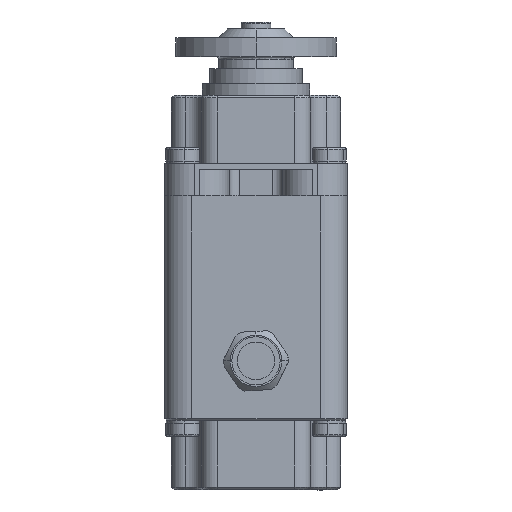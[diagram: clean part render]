
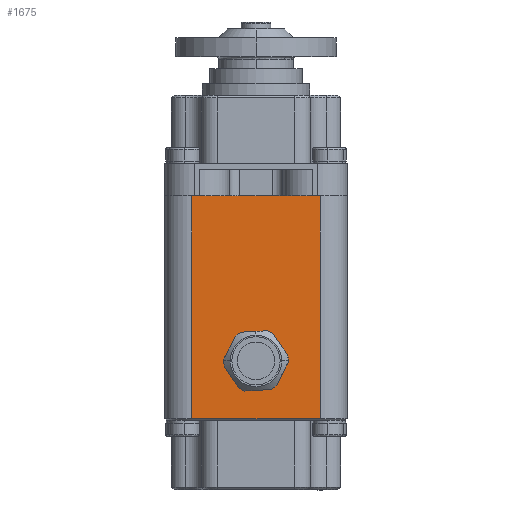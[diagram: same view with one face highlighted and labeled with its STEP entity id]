
A CAD part, front view. The second image highlights one B-rep face of the part: STEP entity #1675.
In plain terms, the highlighted planar face has unit normal (0, -1, 0).
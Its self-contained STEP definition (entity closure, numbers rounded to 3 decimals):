
#16 = CARTESIAN_POINT ( 'NONE',  ( -2.697, -17.3, -44.24 ) ) ;
#113 = EDGE_LOOP ( 'NONE', ( #15034, #4966, #6314, #21795, #18076, #9663, #15623, #6759, #18980, #1088, #8671, #14453 ) ) ;
#280 = CARTESIAN_POINT ( 'NONE',  ( 5.916, -17.3, -48.599 ) ) ;
#435 = VERTEX_POINT ( 'NONE', #11527 ) ;
#533 = AXIS2_PLACEMENT_3D ( 'NONE', #10799, #2221, #9109 ) ;
#630 = CARTESIAN_POINT ( 'NONE',  ( 12., -17.3, -53.8 ) ) ;
#824 = ORIENTED_EDGE ( 'NONE', *, *, #9111, .T. ) ;
#848 = LINE ( 'NONE', #630, #13918 ) ;
#895 = CARTESIAN_POINT ( 'NONE',  ( 0., -17.3, -49.6 ) ) ;
#1088 = ORIENTED_EDGE ( 'NONE', *, *, #11759, .T. ) ;
#1186 = VERTEX_POINT ( 'NONE', #1279 ) ;
#1276 = LINE ( 'NONE', #4769, #2254 ) ;
#1279 = CARTESIAN_POINT ( 'NONE',  ( 12., -17.3, -18.8 ) ) ;
#1283 = VECTOR ( 'NONE', #6391, 1000. ) ;
#1524 = VECTOR ( 'NONE', #8959, 1000. ) ;
#1675 = ADVANCED_FACE ( 'NONE', ( #9004, #19355 ), #3916, .T. ) ;
#1892 = CARTESIAN_POINT ( 'NONE',  ( -2.091, -17.3, -55.224 ) ) ;
#1998 = EDGE_CURVE ( 'NONE', #21688, #3635, #14967, .T. ) ;
#2062 = LINE ( 'NONE', #9287, #1524 ) ;
#2113 = CIRCLE ( 'NONE', #4261, 6. ) ;
#2221 = DIRECTION ( 'NONE',  ( 0., -1., 0. ) ) ;
#2254 = VECTOR ( 'NONE', #16829, 1000. ) ;
#2385 = CARTESIAN_POINT ( 'NONE',  ( -5.99, -17.3, -49.256 ) ) ;
#2744 = EDGE_CURVE ( 'NONE', #7207, #6990, #11266, .T. ) ;
#2946 = VERTEX_POINT ( 'NONE', #1892 ) ;
#2953 = VECTOR ( 'NONE', #15118, 1000. ) ;
#3165 = AXIS2_PLACEMENT_3D ( 'NONE', #16786, #19535, #21238 ) ;
#3289 = DIRECTION ( 'NONE',  ( 0., -1., 0. ) ) ;
#3635 = VERTEX_POINT ( 'NONE', #12324 ) ;
#3790 = EDGE_CURVE ( 'NONE', #20111, #6469, #4233, .T. ) ;
#3916 = PLANE ( 'NONE',  #533 ) ;
#3963 = CARTESIAN_POINT ( 'NONE',  ( 5.99, -17.3, -49.944 ) ) ;
#4161 = LINE ( 'NONE', #10040, #2953 ) ;
#4233 = CIRCLE ( 'NONE', #3165, 6. ) ;
#4261 = AXIS2_PLACEMENT_3D ( 'NONE', #16336, #7436, #12727 ) ;
#4269 = DIRECTION ( 'NONE',  ( 0.452, 0., 0.892 ) ) ;
#4368 = VERTEX_POINT ( 'NONE', #22061 ) ;
#4769 = CARTESIAN_POINT ( 'NONE',  ( 10.5, -17.3, -18.8 ) ) ;
#4966 = ORIENTED_EDGE ( 'NONE', *, *, #19036, .T. ) ;
#5136 = EDGE_CURVE ( 'NONE', #5389, #6469, #10501, .T. ) ;
#5389 = VERTEX_POINT ( 'NONE', #11439 ) ;
#5514 = AXIS2_PLACEMENT_3D ( 'NONE', #15285, #20459, #15394 ) ;
#5596 = CARTESIAN_POINT ( 'NONE',  ( -3.825, -17.3, -44.977 ) ) ;
#5773 = DIRECTION ( 'NONE',  ( -0.452, 0., -0.892 ) ) ;
#5935 = DIRECTION ( 'NONE',  ( 0., 0., -1. ) ) ;
#6210 = LINE ( 'NONE', #3963, #11525 ) ;
#6314 = ORIENTED_EDGE ( 'NONE', *, *, #20692, .F. ) ;
#6350 = EDGE_CURVE ( 'NONE', #5389, #6990, #9688, .T. ) ;
#6391 = DIRECTION ( 'NONE',  ( 1., 0., 0. ) ) ;
#6469 = VERTEX_POINT ( 'NONE', #14897 ) ;
#6759 = ORIENTED_EDGE ( 'NONE', *, *, #5136, .T. ) ;
#6813 = CARTESIAN_POINT ( 'NONE',  ( 3.293, -17.3, -44.584 ) ) ;
#6990 = VERTEX_POINT ( 'NONE', #5596 ) ;
#7207 = VERTEX_POINT ( 'NONE', #2385 ) ;
#7293 = EDGE_CURVE ( 'NONE', #9509, #10323, #6210, .T. ) ;
#7350 = DIRECTION ( 'NONE',  ( 0., 0., -1. ) ) ;
#7390 = CARTESIAN_POINT ( 'NONE',  ( -12., -17.3, -53.8 ) ) ;
#7436 = DIRECTION ( 'NONE',  ( 0., -1., 0. ) ) ;
#7663 = EDGE_CURVE ( 'NONE', #9509, #13246, #2113, .T. ) ;
#8671 = ORIENTED_EDGE ( 'NONE', *, *, #7663, .F. ) ;
#8687 = AXIS2_PLACEMENT_3D ( 'NONE', #19477, #19580, #17671 ) ;
#8959 = DIRECTION ( 'NONE',  ( -0.547, 0., 0.837 ) ) ;
#9004 = FACE_BOUND ( 'NONE', #113, .T. ) ;
#9109 = DIRECTION ( 'NONE',  ( 0., 0., -1. ) ) ;
#9111 = EDGE_CURVE ( 'NONE', #435, #21688, #14039, .T. ) ;
#9117 = CARTESIAN_POINT ( 'NONE',  ( -3.293, -17.3, -54.616 ) ) ;
#9120 = CARTESIAN_POINT ( 'NONE',  ( 3.293, -17.3, -44.584 ) ) ;
#9287 = CARTESIAN_POINT ( 'NONE',  ( -3.293, -17.3, -54.616 ) ) ;
#9509 = VERTEX_POINT ( 'NONE', #19527 ) ;
#9663 = ORIENTED_EDGE ( 'NONE', *, *, #2744, .T. ) ;
#9688 = CIRCLE ( 'NONE', #14358, 6. ) ;
#9763 = EDGE_CURVE ( 'NONE', #1186, #3635, #848, .T. ) ;
#10040 = CARTESIAN_POINT ( 'NONE',  ( 2.697, -17.3, -54.96 ) ) ;
#10179 = DIRECTION ( 'NONE',  ( 0.998, 0., 0.055 ) ) ;
#10323 = VERTEX_POINT ( 'NONE', #14936 ) ;
#10364 = EDGE_CURVE ( 'NONE', #435, #1186, #1276, .T. ) ;
#10501 = LINE ( 'NONE', #16, #17264 ) ;
#10799 = CARTESIAN_POINT ( 'NONE',  ( 12., -17.3, -53.8 ) ) ;
#11146 = ORIENTED_EDGE ( 'NONE', *, *, #9763, .F. ) ;
#11266 = LINE ( 'NONE', #16567, #20756 ) ;
#11439 = CARTESIAN_POINT ( 'NONE',  ( -2.697, -17.3, -44.24 ) ) ;
#11525 = VECTOR ( 'NONE', #5773, 1000. ) ;
#11527 = CARTESIAN_POINT ( 'NONE',  ( -12., -17.3, -18.8 ) ) ;
#11759 = EDGE_CURVE ( 'NONE', #20111, #13246, #20559, .T. ) ;
#12324 = CARTESIAN_POINT ( 'NONE',  ( 12., -17.3, -60.4 ) ) ;
#12482 = VECTOR ( 'NONE', #16175, 1000. ) ;
#12727 = DIRECTION ( 'NONE',  ( 0., 0., -1. ) ) ;
#13246 = VERTEX_POINT ( 'NONE', #280 ) ;
#13722 = CIRCLE ( 'NONE', #8687, 6. ) ;
#13896 = EDGE_CURVE ( 'NONE', #4368, #10323, #19735, .T. ) ;
#13918 = VECTOR ( 'NONE', #5935, 1000. ) ;
#14039 = LINE ( 'NONE', #7390, #12482 ) ;
#14253 = VERTEX_POINT ( 'NONE', #20928 ) ;
#14358 = AXIS2_PLACEMENT_3D ( 'NONE', #895, #14451, #7350 ) ;
#14451 = DIRECTION ( 'NONE',  ( 0., -1., 0. ) ) ;
#14453 = ORIENTED_EDGE ( 'NONE', *, *, #7293, .T. ) ;
#14576 = ORIENTED_EDGE ( 'NONE', *, *, #1998, .T. ) ;
#14897 = CARTESIAN_POINT ( 'NONE',  ( 2.091, -17.3, -43.976 ) ) ;
#14936 = CARTESIAN_POINT ( 'NONE',  ( 3.825, -17.3, -54.223 ) ) ;
#14967 = LINE ( 'NONE', #21838, #1283 ) ;
#15034 = ORIENTED_EDGE ( 'NONE', *, *, #13896, .F. ) ;
#15118 = DIRECTION ( 'NONE',  ( -0.998, 0., -0.055 ) ) ;
#15285 = CARTESIAN_POINT ( 'NONE',  ( 0., -17.3, -49.6 ) ) ;
#15394 = DIRECTION ( 'NONE',  ( 0., 0., -1. ) ) ;
#15623 = ORIENTED_EDGE ( 'NONE', *, *, #6350, .F. ) ;
#15969 = CIRCLE ( 'NONE', #5514, 6. ) ;
#16175 = DIRECTION ( 'NONE',  ( 0., 0., -1. ) ) ;
#16336 = CARTESIAN_POINT ( 'NONE',  ( 0., -17.3, -49.6 ) ) ;
#16419 = ORIENTED_EDGE ( 'NONE', *, *, #10364, .F. ) ;
#16567 = CARTESIAN_POINT ( 'NONE',  ( -5.99, -17.3, -49.256 ) ) ;
#16786 = CARTESIAN_POINT ( 'NONE',  ( 0., -17.3, -49.6 ) ) ;
#16815 = DIRECTION ( 'NONE',  ( 0., 0., -1. ) ) ;
#16829 = DIRECTION ( 'NONE',  ( 1., 0., 0. ) ) ;
#16875 = EDGE_CURVE ( 'NONE', #7207, #14253, #13722, .T. ) ;
#17264 = VECTOR ( 'NONE', #10179, 1000. ) ;
#17288 = DIRECTION ( 'NONE',  ( 0.547, 0., -0.837 ) ) ;
#17671 = DIRECTION ( 'NONE',  ( 0., 0., -1. ) ) ;
#17940 = VERTEX_POINT ( 'NONE', #9117 ) ;
#18076 = ORIENTED_EDGE ( 'NONE', *, *, #16875, .F. ) ;
#18623 = AXIS2_PLACEMENT_3D ( 'NONE', #20421, #3289, #16815 ) ;
#18980 = ORIENTED_EDGE ( 'NONE', *, *, #3790, .F. ) ;
#18989 = VECTOR ( 'NONE', #17288, 1000. ) ;
#19036 = EDGE_CURVE ( 'NONE', #4368, #2946, #4161, .T. ) ;
#19123 = CARTESIAN_POINT ( 'NONE',  ( -12., -17.3, -60.4 ) ) ;
#19355 = FACE_OUTER_BOUND ( 'NONE', #20001, .T. ) ;
#19477 = CARTESIAN_POINT ( 'NONE',  ( 0., -17.3, -49.6 ) ) ;
#19527 = CARTESIAN_POINT ( 'NONE',  ( 5.99, -17.3, -49.944 ) ) ;
#19535 = DIRECTION ( 'NONE',  ( 0., -1., 0. ) ) ;
#19579 = EDGE_CURVE ( 'NONE', #17940, #14253, #2062, .T. ) ;
#19580 = DIRECTION ( 'NONE',  ( 0., -1., 0. ) ) ;
#19735 = CIRCLE ( 'NONE', #18623, 6. ) ;
#20001 = EDGE_LOOP ( 'NONE', ( #824, #14576, #11146, #16419 ) ) ;
#20111 = VERTEX_POINT ( 'NONE', #9120 ) ;
#20421 = CARTESIAN_POINT ( 'NONE',  ( 0., -17.3, -49.6 ) ) ;
#20459 = DIRECTION ( 'NONE',  ( 0., -1., 0. ) ) ;
#20559 = LINE ( 'NONE', #6813, #18989 ) ;
#20692 = EDGE_CURVE ( 'NONE', #17940, #2946, #15969, .T. ) ;
#20756 = VECTOR ( 'NONE', #4269, 1000. ) ;
#20928 = CARTESIAN_POINT ( 'NONE',  ( -5.916, -17.3, -50.601 ) ) ;
#21238 = DIRECTION ( 'NONE',  ( 0., 0., -1. ) ) ;
#21688 = VERTEX_POINT ( 'NONE', #19123 ) ;
#21795 = ORIENTED_EDGE ( 'NONE', *, *, #19579, .T. ) ;
#21838 = CARTESIAN_POINT ( 'NONE',  ( 12., -17.3, -60.4 ) ) ;
#22061 = CARTESIAN_POINT ( 'NONE',  ( 2.697, -17.3, -54.96 ) ) ;
